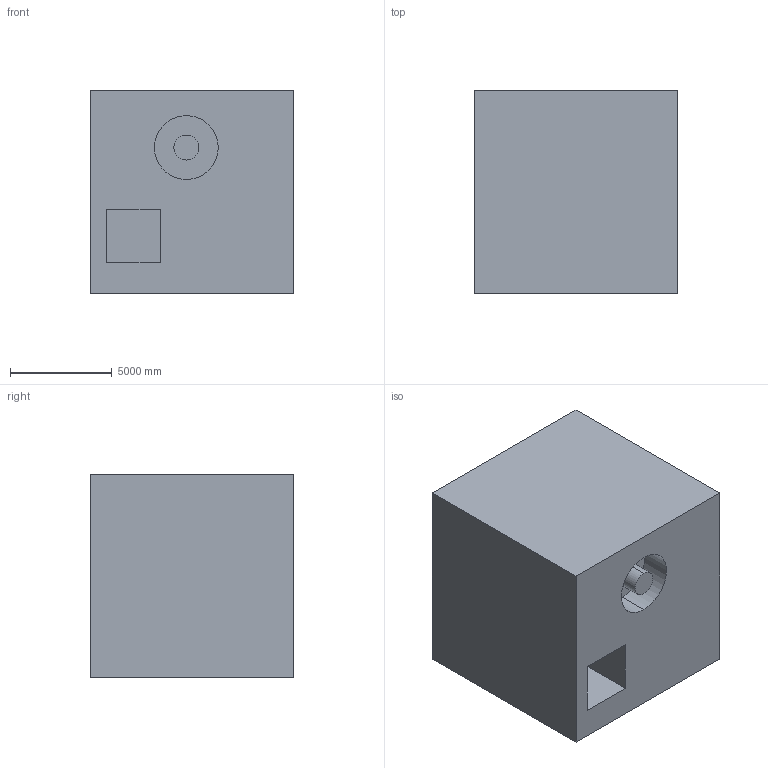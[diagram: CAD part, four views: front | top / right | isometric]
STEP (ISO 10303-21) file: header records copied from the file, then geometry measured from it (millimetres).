
FILE_DESCRIPTION (( 'STEP AP203' ), '1' );
FILE_NAME ('299.STEP', '2022-07-28T14:15:16', ( 'user' ), ( '' ), 'SwSTEP 2.0', 'SolidWorks 2021', '' );
FILE_SCHEMA (( 'CONFIG_CONTROL_DESIGN' ));
Length unit declared in the file: centimetre
Products named in the file (1): 299
Bounding box: 10000 x 10000 x 10000 mm (x, y, z)
Volume: 933937706467.1 mm3; surface area: 681820973.7 mm2
Topology: 1 solids, 1 shells, 19 faces, 42 edges, 28 vertices
Faces by surface type: plane 15, cylinder 4
Entity records: 601 total; most frequent: DIRECTION 90, CARTESIAN_POINT 90, ORIENTED_EDGE 84, EDGE_CURVE 42, LINE 34, VECTOR 34, VERTEX_POINT 28, AXIS2_PLACEMENT_3D 28
